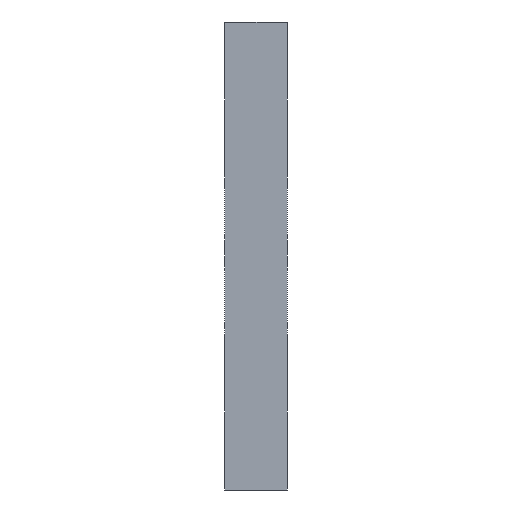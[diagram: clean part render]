
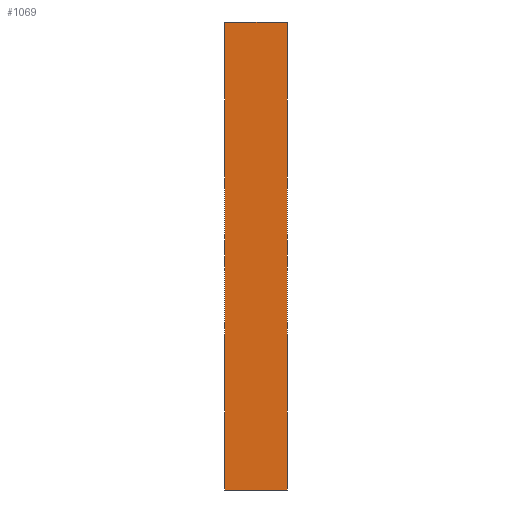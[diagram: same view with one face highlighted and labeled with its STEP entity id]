
A CAD part, left-side view. The second image highlights one B-rep face of the part: STEP entity #1069.
In plain terms, the highlighted planar face has unit normal (-1, 0, 0).
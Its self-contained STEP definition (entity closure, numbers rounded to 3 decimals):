
#101=PLANE('',#1224);
#149=FACE_OUTER_BOUND('',#197,.T.);
#197=EDGE_LOOP('',(#883,#884,#885,#886));
#333=LINE('',#1815,#387);
#334=LINE('',#1818,#388);
#335=LINE('',#1820,#389);
#336=LINE('',#1821,#390);
#387=VECTOR('',#1534,10.);
#388=VECTOR('',#1537,10.);
#389=VECTOR('',#1538,10.);
#390=VECTOR('',#1539,10.);
#565=VERTEX_POINT('',#1811);
#566=VERTEX_POINT('',#1813);
#567=VERTEX_POINT('',#1817);
#568=VERTEX_POINT('',#1819);
#701=EDGE_CURVE('',#565,#566,#333,.T.);
#702=EDGE_CURVE('',#567,#565,#334,.T.);
#703=EDGE_CURVE('',#568,#566,#335,.T.);
#704=EDGE_CURVE('',#567,#568,#336,.T.);
#883=ORIENTED_EDGE('',*,*,#702,.T.);
#884=ORIENTED_EDGE('',*,*,#701,.T.);
#885=ORIENTED_EDGE('',*,*,#703,.F.);
#886=ORIENTED_EDGE('',*,*,#704,.F.);
#1069=ADVANCED_FACE('',(#149),#101,.T.);
#1224=AXIS2_PLACEMENT_3D('',#1816,#1535,#1536);
#1534=DIRECTION('',(0.,1.,0.));
#1535=DIRECTION('center_axis',(-1.,0.,0.));
#1536=DIRECTION('ref_axis',(0.,0.,1.));
#1537=DIRECTION('',(0.,0.,1.));
#1538=DIRECTION('',(0.,0.,1.));
#1539=DIRECTION('',(0.,1.,0.));
#1811=CARTESIAN_POINT('',(-250.,0.,0.));
#1813=CARTESIAN_POINT('',(-250.,10.,0.));
#1815=CARTESIAN_POINT('',(-250.,0.,0.));
#1816=CARTESIAN_POINT('Origin',(-250.,0.,-75.));
#1817=CARTESIAN_POINT('',(-250.,0.,-75.));
#1818=CARTESIAN_POINT('',(-250.,0.,-75.));
#1819=CARTESIAN_POINT('',(-250.,10.,-75.));
#1820=CARTESIAN_POINT('',(-250.,10.,-75.));
#1821=CARTESIAN_POINT('',(-250.,0.,-75.));
